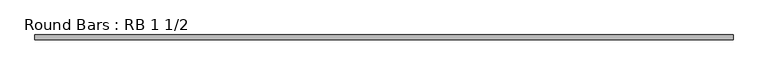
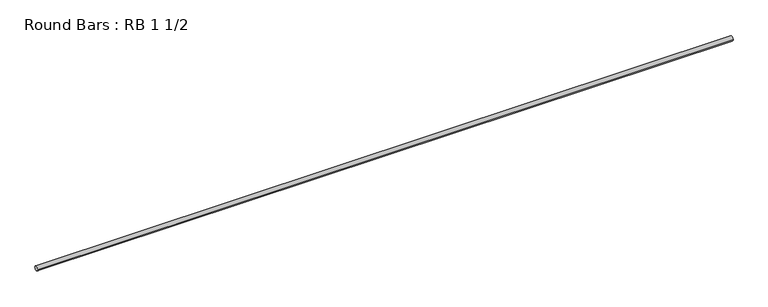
"""IFC4 building model written with IfcOpenShell, lengths in millimetres: member geometry, Round Bars : RB 1 1/2."""

from ifc_helpers import new_model, si_unit, point, frame, origin, origin_2d, place, context, project, spatial, circle_curve, trimmed, segment, composite_curve, outline, extrude, source, transform, mapped, element, save


def round_bars_rb_1_1_2_096f664b(model_context):
    return source(origin(), model_context, "Body", "SweptSolid", [
        extrude(outline(composite_curve([segment(trimmed(circle_curve(origin_2d(), 19.05), [point((19.05, 0.0))], [point((-19.05, 0.0))], False, "CARTESIAN"), True, "CONTINUOUS"), segment(trimmed(circle_curve(origin_2d(), 19.05), [point((-19.05, 0.0))], [point((19.05, 0.0))], False, "CARTESIAN"), True, "CONTINUOUS")], self_intersect=False)), frame((-2830.582045, 0.0, 0.0), z_axis=(1.0, 0.0, 0.0), x_axis=(0.0, 1.0, 0.0)), (0.0, 0.0, 1.0), 5661.1640899),
    ])


if __name__ == "__main__":
    model = new_model("IFC4")
    model_context = context("Model", 3, world=origin())
    ifc_project = project(units=[si_unit("LENGTHUNIT", "METRE", prefix="MILLI")], contexts=[model_context])
    site = spatial("IfcSite", under=ifc_project)
    building = spatial("IfcBuilding", under=site)
    placement = place(None, origin())
    round_bars_rb_1_1_2_shape = round_bars_rb_1_1_2_096f664b(model_context)
    element("IfcMember", 1, ObjectType="Round Bars : RB 1 1/2", at=placement, inside=building, context=model_context, shape_type="MappedRepresentation", body=[
        mapped(round_bars_rb_1_1_2_shape, transform((0.0, 0.0, 0.0), x_axis=(1.0, 0.0, 0.0), y_axis=(0.0, 1.0, 0.0), z_axis=(0.0, 0.0, 1.0))),
    ])
    save(model, "model.ifc")
